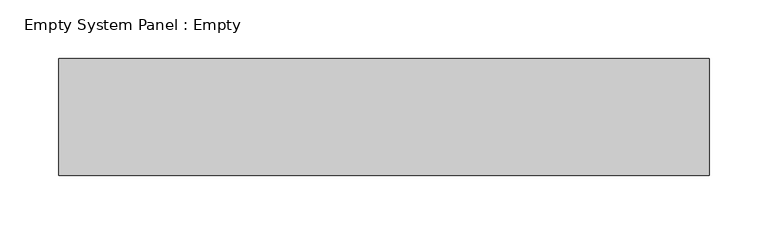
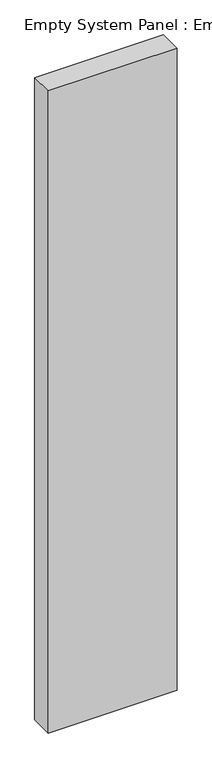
"""IFC4 building model written with IfcOpenShell, lengths in millimetres: plate geometry, Empty System Panel : Empty."""

from ifc_helpers import new_model, si_unit, origin, origin_with_axes, place, context, project, spatial, polyline, outline, extrude, source, transform, mapped, element, save


def empty_system_panel_empty_c1b1d027(model_context):
    return source(origin(), model_context, "Body", "SweptSolid", [
        extrude(outline(polyline([(277.5, -50.0), (-277.5, -50.0), (-277.5, 50.0), (277.5, 50.0), (277.5, -50.0)])), origin_with_axes(), (0.0, 0.0, 1.0), 2925.0),
    ])


if __name__ == "__main__":
    model = new_model("IFC4")
    model_context = context("Model", 3, world=origin())
    ifc_project = project(units=[si_unit("LENGTHUNIT", "METRE", prefix="MILLI")], contexts=[model_context])
    site = spatial("IfcSite", under=ifc_project)
    building = spatial("IfcBuilding", under=site)
    placement = place(None, origin())
    empty_system_panel_empty_shape = empty_system_panel_empty_c1b1d027(model_context)
    element("IfcPlate", 1, ObjectType="Empty System Panel : Empty", at=placement, inside=building, context=model_context, shape_type="MappedRepresentation", body=[
        mapped(empty_system_panel_empty_shape, transform((0.0, 0.0, 0.0), x_axis=(1.0, 0.0, 0.0), y_axis=(0.0, 1.0, 0.0), z_axis=(0.0, 0.0, 1.0))),
    ])
    save(model, "model.ifc")
